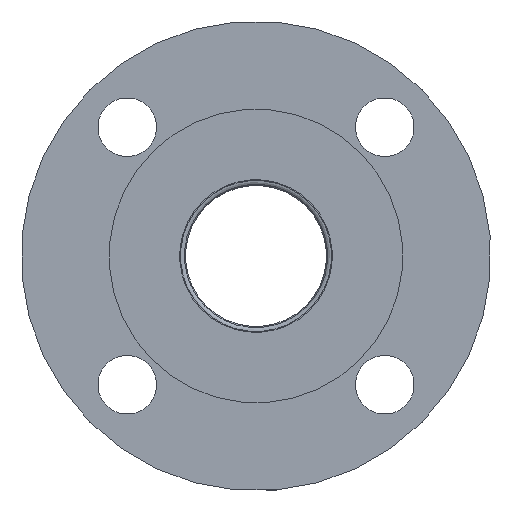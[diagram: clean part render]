
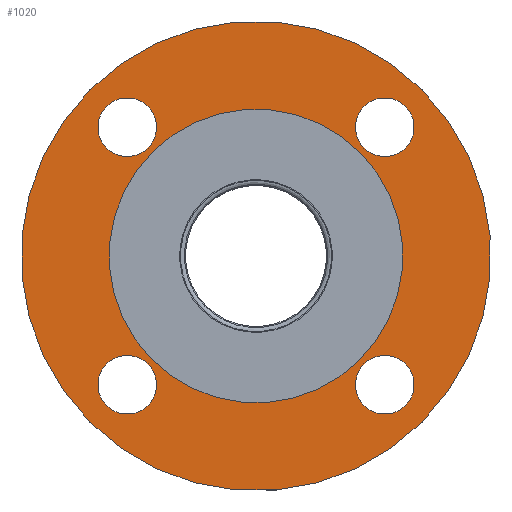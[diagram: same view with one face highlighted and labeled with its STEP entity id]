
A CAD part, front view. The second image highlights one B-rep face of the part: STEP entity #1020.
In plain terms, the highlighted planar face has unit normal (0, -1, 0) as drawn and (0, 0, -1) by its records, which use the part's own axes.
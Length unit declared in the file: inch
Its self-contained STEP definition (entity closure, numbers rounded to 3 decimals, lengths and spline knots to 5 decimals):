
#925=CARTESIAN_POINT('',(1.4375,0.,0.0));
#926=VERTEX_POINT('',#925);
#927=CARTESIAN_POINT('',(0.0,0.0,0.0));
#928=DIRECTION('',(0.0,0.0,-1.0));
#929=DIRECTION('',(-1.0,0.0,0.0));
#930=AXIS2_PLACEMENT_3D('',#927,#928,#929);
#931=CIRCLE('',#930,1.4375);
#932=EDGE_CURVE('',#926,#926,#931,.T.);
#957=CARTESIAN_POINT('',(0.0,0.0,0.0));
#958=DIRECTION('',(0.0,0.0,-1.0));
#959=DIRECTION('',(-1.0,0.0,0.0));
#960=AXIS2_PLACEMENT_3D('',#957,#958,#959);
#961=PLANE('',#960);
#962=CARTESIAN_POINT('',(2.5,0.,0.0));
#963=VERTEX_POINT('',#962);
#964=CARTESIAN_POINT('',(0.0,0.0,0.0));
#965=DIRECTION('',(0.0,0.0,-1.0));
#966=DIRECTION('',(-1.0,0.0,0.0));
#967=AXIS2_PLACEMENT_3D('',#964,#965,#966);
#968=CIRCLE('',#967,2.5);
#969=EDGE_CURVE('',#963,#963,#968,.T.);
#970=ORIENTED_EDGE('',*,*,#969,.T.);
#971=EDGE_LOOP('',(#970));
#972=FACE_OUTER_BOUND('',#971,.T.);
#973=CARTESIAN_POINT('',(-0.3125,1.9375,0.0));
#974=VERTEX_POINT('',#973);
#975=CARTESIAN_POINT('',(0.0,1.9375,0.0));
#976=DIRECTION('',(0.0,0.0,1.0));
#977=DIRECTION('',(-1.0,0.0,0.0));
#978=AXIS2_PLACEMENT_3D('',#975,#976,#977);
#979=CIRCLE('',#978,0.3125);
#980=EDGE_CURVE('',#974,#974,#979,.T.);
#981=ORIENTED_EDGE('',*,*,#980,.T.);
#982=EDGE_LOOP('',(#981));
#983=FACE_BOUND('',#982,.T.);
#984=CARTESIAN_POINT('',(-1.9375,-0.3125,0.0));
#985=VERTEX_POINT('',#984);
#986=CARTESIAN_POINT('',(-1.9375,0.,0.0));
#987=DIRECTION('',(0.0,0.0,1.0));
#988=DIRECTION('',(0.0,-1.0,0.0));
#989=AXIS2_PLACEMENT_3D('',#986,#987,#988);
#990=CIRCLE('',#989,0.3125);
#991=EDGE_CURVE('',#985,#985,#990,.T.);
#992=ORIENTED_EDGE('',*,*,#991,.T.);
#993=EDGE_LOOP('',(#992));
#994=FACE_BOUND('',#993,.T.);
#995=CARTESIAN_POINT('',(0.3125,-1.9375,0.0));
#996=VERTEX_POINT('',#995);
#997=CARTESIAN_POINT('',(0.,-1.9375,0.0));
#998=DIRECTION('',(0.0,0.0,1.0));
#999=DIRECTION('',(1.0,0.0,0.0));
#1000=AXIS2_PLACEMENT_3D('',#997,#998,#999);
#1001=CIRCLE('',#1000,0.3125);
#1002=EDGE_CURVE('',#996,#996,#1001,.T.);
#1003=ORIENTED_EDGE('',*,*,#1002,.T.);
#1004=EDGE_LOOP('',(#1003));
#1005=FACE_BOUND('',#1004,.T.);
#1006=CARTESIAN_POINT('',(1.9375,0.3125,0.0));
#1007=VERTEX_POINT('',#1006);
#1008=CARTESIAN_POINT('',(1.9375,0.,0.0));
#1009=DIRECTION('',(0.0,0.0,1.0));
#1010=DIRECTION('',(0.0,1.0,0.0));
#1011=AXIS2_PLACEMENT_3D('',#1008,#1009,#1010);
#1012=CIRCLE('',#1011,0.3125);
#1013=EDGE_CURVE('',#1007,#1007,#1012,.T.);
#1014=ORIENTED_EDGE('',*,*,#1013,.T.);
#1015=EDGE_LOOP('',(#1014));
#1016=FACE_BOUND('',#1015,.T.);
#1017=ORIENTED_EDGE('',*,*,#932,.F.);
#1018=EDGE_LOOP('',(#1017));
#1019=FACE_BOUND('',#1018,.T.);
#1020=ADVANCED_FACE('',(#972,#983,#994,#1005,#1016,#1019),#961,.T.);
